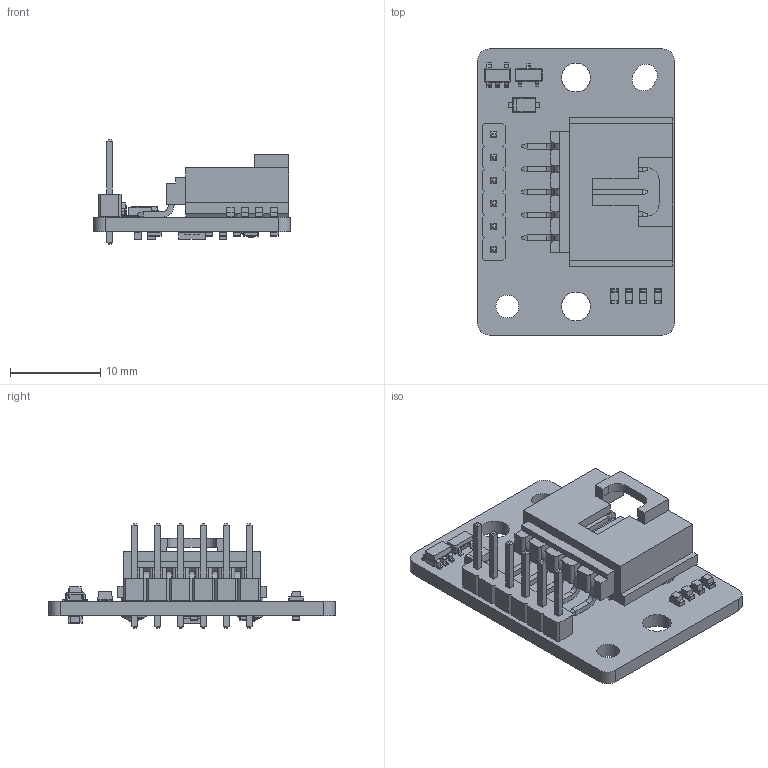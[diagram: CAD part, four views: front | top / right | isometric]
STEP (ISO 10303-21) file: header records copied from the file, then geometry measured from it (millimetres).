
FILE_DESCRIPTION(('KiCad electronic assembly'),'2;1');
FILE_NAME('mag-encoder.step','2024-08-24T22:10:39',('Pcbnew'),('Kicad'), 'Open CASCADE STEP processor 7.6','KiCad to STEP converter','Unknown' );
FILE_SCHEMA(('AUTOMOTIVE_DESIGN { 1 0 10303 214 1 1 1 1 }'));
Length unit declared in the file: millimetre
Products named in the file (20): mag-encoder 1; SOT-23-5; SOT_23_5; LED_0603_1608Metric; SOT-23; SOT_23; Molex-015912055; 015912055; PinHeader_1x06_P2.54mm_Vertical; PinHeader_1x06_P254mm_Vertical; D_SOD-123F; D_SOD_123F; R_0603_1608Metric; C_0603_1608Metric; QFN-16-1EP_3x3mm_P0.5mm_EP1.7x1.7mm; mag-encoder_PCB
Assembly tree (30 placements, depth 3):
  mag-encoder 1
    SOT-23-5
      SOT_23_5
    LED_0603_1608Metric  x4
      LED_0603_1608Metric
    SOT-23
      SOT_23
    Molex-015912055
      015912055
    PinHeader_1x06_P2.54mm_Vertical
      PinHeader_1x06_P254mm_Vertical
    D_SOD-123F
      D_SOD_123F
    R_0603_1608Metric  x7
      R_0603_1608Metric
    C_0603_1608Metric  x3
      C_0603_1608Metric
    QFN-16-1EP_3x3mm_P0.5mm_EP1.7x1.7mm
      QFN-16-1EP_3x3mm_P0.5mm_EP1.7x1.7mm
    mag-encoder_PCB
Bounding box: 21.84 x 31.75 x 11.54 mm (x, y, z)
Volume: 1788.8 mm3; surface area: 3345.3 mm2
Topology: 26 solids, 26 shells, 1213 faces, 3186 edges, 2072 vertices
Faces by surface type: plane 928, cylinder 217, bspline 68
Full cylindrical faces by diameter (mm): 0.2 x1, 1 x6, 2.54 x1, 3.2 x2, 3.4 x2
Entity records: 30191 total; most frequent: CARTESIAN_POINT 5039, ORIENTED_EDGE 4414, DIRECTION 4007, EDGE_CURVE 2207, LINE 1907, VECTOR 1907, VERTEX_POINT 1398, AXIS2_PLACEMENT_3D 1050
